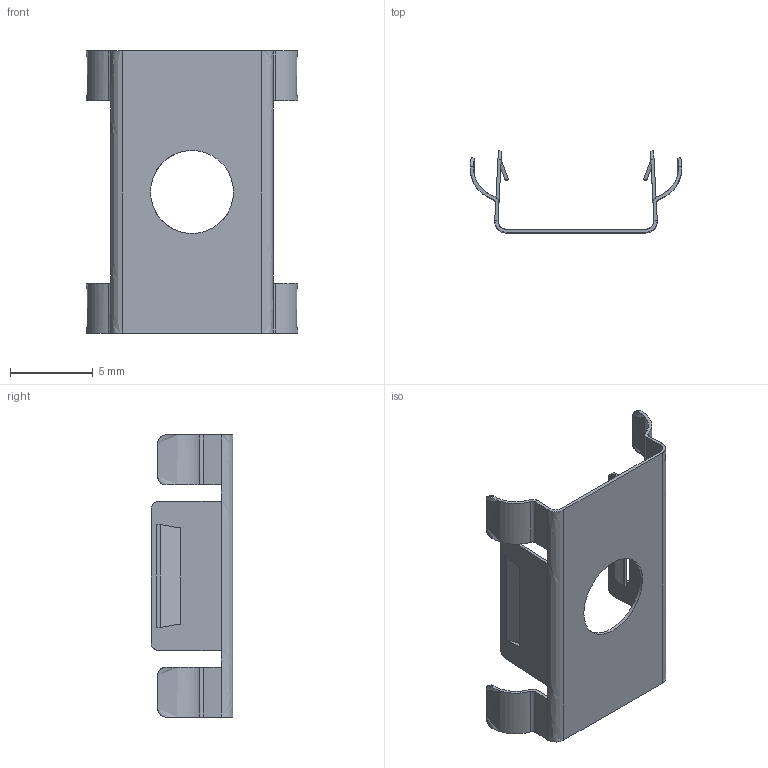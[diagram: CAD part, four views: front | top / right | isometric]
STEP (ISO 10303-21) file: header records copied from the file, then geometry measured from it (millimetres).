
FILE_DESCRIPTION(/* description */ (''),/* implementation_level */ '2;1');
FILE_NAME(/* name */ '004',/* time_stamp */ '2025-06-16T17:17:14+08:00',/* author */ (''),/* organization */ (''),/* preprocessor_version */ 'ST-DEVELOPER v16.5',/* originating_system */ '',/* authorisation */ '');
FILE_SCHEMA (('AUTOMOTIVE_DESIGN'));
Length unit declared in the file: millimetre
Products named in the file (1): Document
Bounding box: 12.77 x 4.93 x 17 mm (x, y, z)
Volume: 57.1 mm3; surface area: 601.1 mm2
Topology: 1 solids, 1 shells, 102 faces, 271 edges, 171 vertices
Faces by surface type: bspline 102
Entity records: 6816 total; most frequent: CARTESIAN_POINT 3510, B_SPLINE_CURVE_WITH_KNOTS 551, ORIENTED_EDGE 542, PCURVE 542, DEFINITIONAL_REPRESENTATION 542, SURFACE_CURVE 271, EDGE_CURVE 271, VERTEX_POINT 171
